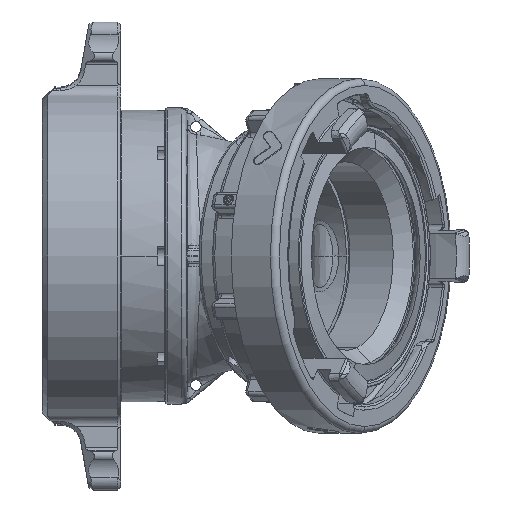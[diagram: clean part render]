
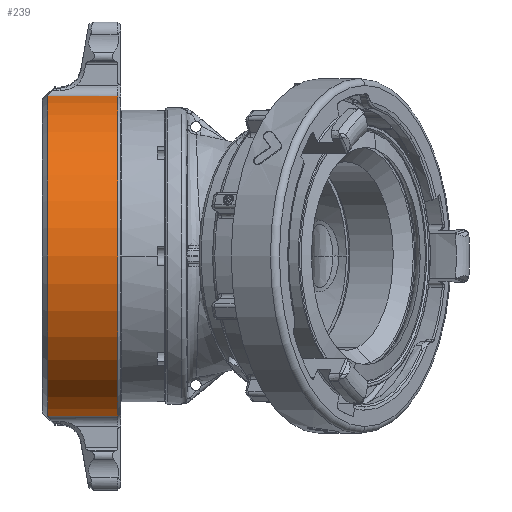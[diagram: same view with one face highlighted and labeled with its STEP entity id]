
A CAD part, front view. The second image highlights one B-rep face of the part: STEP entity #239.
In plain terms, the highlighted cylindrical face has radius 98.425 mm (diameter 196.85 mm), a partial arc.
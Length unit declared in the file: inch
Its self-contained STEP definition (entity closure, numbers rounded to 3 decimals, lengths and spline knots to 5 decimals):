
#239 = ADVANCED_FACE ( 'NONE', ( #49734 ), #373, .T. ) ;
#373 = CYLINDRICAL_SURFACE ( 'NONE', #8808, 3.875 ) ;
#3119 = VERTEX_POINT ( 'NONE', #50414 ) ;
#4576 = CIRCLE ( 'NONE', #59624, 3.875 ) ;
#8808 = AXIS2_PLACEMENT_3D ( 'NONE', #15608, #36190, #56293 ) ;
#11459 = ORIENTED_EDGE ( 'NONE', *, *, #40780, .T. ) ;
#13399 = VECTOR ( 'NONE', #54165, 39.37008 ) ;
#14035 = CARTESIAN_POINT ( 'NONE',  ( -1.158, 0., 0. ) ) ;
#15608 = CARTESIAN_POINT ( 'NONE',  ( -1.333, 0., 0. ) ) ;
#19103 = DIRECTION ( 'NONE',  ( -1., 0., 0. ) ) ;
#19520 = ORIENTED_EDGE ( 'NONE', *, *, #59132, .F. ) ;
#25564 = EDGE_CURVE ( 'NONE', #3119, #46420, #27489, .T. ) ;
#26312 = CARTESIAN_POINT ( 'NONE',  ( -1.333, -0.68106, 3.81468 ) ) ;
#27138 = EDGE_LOOP ( 'NONE', ( #11459, #51724, #55253, #19520 ) ) ;
#27489 = CIRCLE ( 'NONE', #58059, 3.875 ) ;
#35241 = EDGE_CURVE ( 'NONE', #38632, #46420, #49138, .T. ) ;
#36108 = DIRECTION ( 'NONE',  ( 1., 0., 0. ) ) ;
#36190 = DIRECTION ( 'NONE',  ( 1., 0., 0. ) ) ;
#37179 = CARTESIAN_POINT ( 'NONE',  ( 0.5175, -0.68106, 3.81468 ) ) ;
#38384 = DIRECTION ( 'NONE',  ( 0., 0., 1. ) ) ;
#38632 = VERTEX_POINT ( 'NONE', #61480 ) ;
#40728 = CARTESIAN_POINT ( 'NONE',  ( -1.158, -0.68106, -3.81468 ) ) ;
#40780 = EDGE_CURVE ( 'NONE', #60410, #3119, #58978, .T. ) ;
#46420 = VERTEX_POINT ( 'NONE', #37179 ) ;
#49138 = LINE ( 'NONE', #26312, #52066 ) ;
#49316 = CARTESIAN_POINT ( 'NONE',  ( -1.333, -0.68106, -3.81468 ) ) ;
#49734 = FACE_OUTER_BOUND ( 'NONE', #27138, .T. ) ;
#50414 = CARTESIAN_POINT ( 'NONE',  ( 0.5175, -0.68106, -3.81468 ) ) ;
#51724 = ORIENTED_EDGE ( 'NONE', *, *, #25564, .T. ) ;
#52066 = VECTOR ( 'NONE', #36108, 39.37008 ) ;
#53029 = CARTESIAN_POINT ( 'NONE',  ( 0.5175, 0., 0. ) ) ;
#53272 = DIRECTION ( 'NONE',  ( 0., 0., -1. ) ) ;
#54165 = DIRECTION ( 'NONE',  ( 1., 0., 0. ) ) ;
#55253 = ORIENTED_EDGE ( 'NONE', *, *, #35241, .F. ) ;
#56293 = DIRECTION ( 'NONE',  ( 0., 0., -1. ) ) ;
#57701 = DIRECTION ( 'NONE',  ( -1., 0., 0. ) ) ;
#58059 = AXIS2_PLACEMENT_3D ( 'NONE', #53029, #57701, #38384 ) ;
#58978 = LINE ( 'NONE', #49316, #13399 ) ;
#59132 = EDGE_CURVE ( 'NONE', #60410, #38632, #4576, .T. ) ;
#59624 = AXIS2_PLACEMENT_3D ( 'NONE', #14035, #19103, #53272 ) ;
#60410 = VERTEX_POINT ( 'NONE', #40728 ) ;
#61480 = CARTESIAN_POINT ( 'NONE',  ( -1.158, -0.68106, 3.81468 ) ) ;
